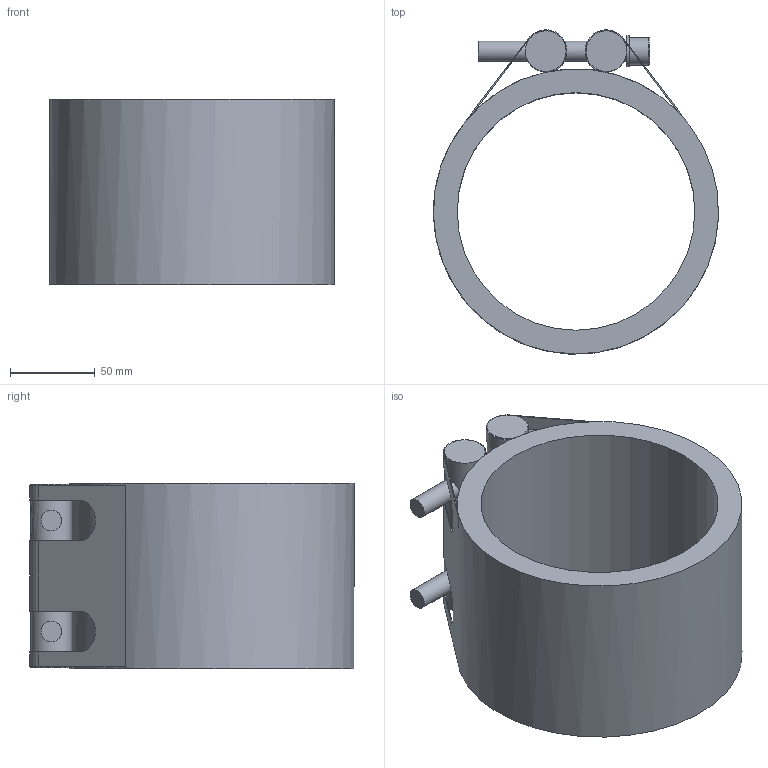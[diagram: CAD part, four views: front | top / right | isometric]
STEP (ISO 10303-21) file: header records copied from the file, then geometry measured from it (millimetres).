
FILE_DESCRIPTION(/* description */ ('Standard Produkte / Standard Products'),/* implementation_level */ '2;1');
FILE_NAME(/* name */ 'C:\Users\BR_11K\Desktop\STRAUB PLAST-GRIP 140.0 mm.stp',/* time_stamp */ '2016-05-09T08:17:54+02:00',/* author */ ('BR_11K'),/* organization */ (''),/* preprocessor_version */ 'ST-DEVELOPER v16.1',/* originating_system */ 'Autodesk Inventor 2016',/* authorisation */ '');
FILE_SCHEMA (('AUTOMOTIVE_DESIGN { 1 0 10303 214 3 1 1 }'));
Length unit declared in the file: millimetre
Products named in the file (1): STRAUB PLAST-GRIP 140.0 mm
Bounding box: 167.92 x 190.99 x 109 mm (x, y, z)
Volume: 857642.1 mm3; surface area: 158178.7 mm2
Topology: 1 solids, 1 shells, 88 faces, 254 edges, 163 vertices
Faces by surface type: plane 56, cylinder 30, torus 2
Full cylindrical faces by diameter (mm): 12 x4, 16 x2, 18 x2, 24 x2, 140 x1, 168 x1
Entity records: 3052 total; most frequent: CARTESIAN_POINT 739, DIRECTION 476, ORIENTED_EDGE 460, EDGE_CURVE 226, AXIS2_PLACEMENT_3D 171, VERTEX_POINT 156, LINE 134, VECTOR 134
